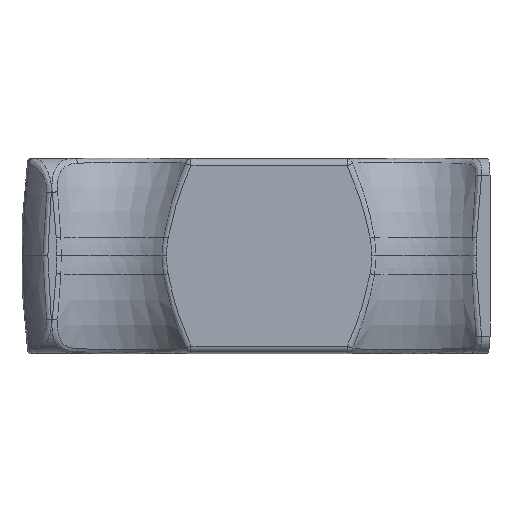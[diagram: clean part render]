
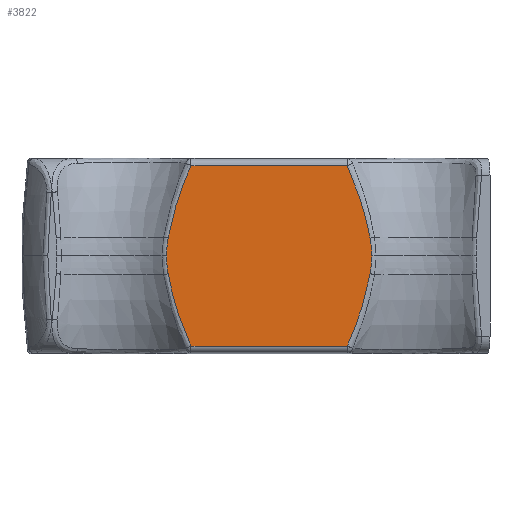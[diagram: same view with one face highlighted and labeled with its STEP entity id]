
A CAD part, top view. The second image highlights one B-rep face of the part: STEP entity #3822.
In plain terms, the highlighted planar face has unit normal (0, 0, 1).
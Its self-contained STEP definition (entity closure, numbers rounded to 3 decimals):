
#252=B_SPLINE_CURVE_WITH_KNOTS('',3,(#7477,#7478,#7479,#7480,#7481,#7482,
#7483,#7484,#7485,#7486),.UNSPECIFIED.,.F.,.F.,(4,3,3,4),(0.,0.346,
0.803,1.),.UNSPECIFIED.);
#253=B_SPLINE_CURVE_WITH_KNOTS('',3,(#7497,#7498,#7499,#7500,#7501,#7502,
#7503,#7504,#7505,#7506),.UNSPECIFIED.,.F.,.F.,(4,3,3,4),(0.,0.197,
0.654,1.),.UNSPECIFIED.);
#372=FACE_OUTER_BOUND('',#607,.T.);
#607=EDGE_LOOP('',(#2641,#2642,#2643,#2644,#2645,#2646,#2647,#2648,#2649,
#2650));
#865=LINE('',#7487,#1106);
#866=LINE('',#7495,#1107);
#1106=VECTOR('',#4550,18.343);
#1107=VECTOR('',#4557,18.343);
#1333=ELLIPSE('',#4124,52.532,41.736);
#1334=ELLIPSE('',#4131,52.531,41.736);
#1406=CIRCLE('',#4128,11.618);
#1407=CIRCLE('',#4129,11.623);
#1408=CIRCLE('',#4130,11.623);
#1409=CIRCLE('',#4132,11.618);
#1638=VERTEX_POINT('',#7467);
#1639=VERTEX_POINT('',#7468);
#1640=VERTEX_POINT('',#7473);
#1641=VERTEX_POINT('',#7474);
#1642=VERTEX_POINT('',#7476);
#1643=VERTEX_POINT('',#7488);
#1644=VERTEX_POINT('',#7490);
#1645=VERTEX_POINT('',#7492);
#1646=VERTEX_POINT('',#7494);
#1647=VERTEX_POINT('',#7496);
#2026=EDGE_CURVE('',#1638,#1639,#1333,.T.);
#2029=EDGE_CURVE('',#1640,#1641,#1406,.T.);
#2030=EDGE_CURVE('',#1642,#1640,#252,.T.);
#2031=EDGE_CURVE('',#1642,#1639,#865,.T.);
#2032=EDGE_CURVE('',#1643,#1638,#1407,.T.);
#2033=EDGE_CURVE('',#1644,#1643,#1408,.T.);
#2034=EDGE_CURVE('',#1645,#1644,#1334,.T.);
#2035=EDGE_CURVE('',#1645,#1646,#866,.T.);
#2036=EDGE_CURVE('',#1647,#1646,#253,.T.);
#2037=EDGE_CURVE('',#1641,#1647,#1409,.T.);
#2641=ORIENTED_EDGE('',*,*,#2029,.F.);
#2642=ORIENTED_EDGE('',*,*,#2030,.F.);
#2643=ORIENTED_EDGE('',*,*,#2031,.T.);
#2644=ORIENTED_EDGE('',*,*,#2026,.F.);
#2645=ORIENTED_EDGE('',*,*,#2032,.F.);
#2646=ORIENTED_EDGE('',*,*,#2033,.F.);
#2647=ORIENTED_EDGE('',*,*,#2034,.F.);
#2648=ORIENTED_EDGE('',*,*,#2035,.T.);
#2649=ORIENTED_EDGE('',*,*,#2036,.F.);
#2650=ORIENTED_EDGE('',*,*,#2037,.F.);
#3509=PLANE('',#4127);
#3822=ADVANCED_FACE('',(#372),#3509,.T.);
#4124=AXIS2_PLACEMENT_3D('',#7469,#4540,#4541);
#4127=AXIS2_PLACEMENT_3D('',#7472,#4546,#4547);
#4128=AXIS2_PLACEMENT_3D('',#7475,#4548,#4549);
#4129=AXIS2_PLACEMENT_3D('',#7489,#4551,#4552);
#4130=AXIS2_PLACEMENT_3D('',#7491,#4553,#4554);
#4131=AXIS2_PLACEMENT_3D('',#7493,#4555,#4556);
#4132=AXIS2_PLACEMENT_3D('',#7507,#4558,#4559);
#4540=DIRECTION('center_axis',(0.,0.,
-1.));
#4541=DIRECTION('ref_axis',(0.994,0.106,0.));
#4546=DIRECTION('center_axis',(0.,0.,1.));
#4547=DIRECTION('ref_axis',(-1.,0.,0.));
#4548=DIRECTION('center_axis',(0.,0.,
-1.));
#4549=DIRECTION('ref_axis',(0.984,0.181,0.));
#4550=DIRECTION('',(-1.,0.,0.));
#4551=DIRECTION('center_axis',(0.,0.,-1.));
#4552=DIRECTION('ref_axis',(-1.,0.,0.));
#4553=DIRECTION('center_axis',(0.,0.,
-1.));
#4554=DIRECTION('ref_axis',(-0.984,-0.18,0.));
#4555=DIRECTION('center_axis',(0.,0.,
-1.));
#4556=DIRECTION('ref_axis',(0.994,-0.106,0.));
#4557=DIRECTION('',(1.,0.,0.));
#4558=DIRECTION('center_axis',(0.,0.,
-1.));
#4559=DIRECTION('ref_axis',(1.,0.,0.));
#7467=CARTESIAN_POINT('',(-11.705,2.095,7.1));
#7468=CARTESIAN_POINT('',(-9.019,10.59,7.1));
#7469=CARTESIAN_POINT('Origin',(40.158,-1.982,7.1));
#7472=CARTESIAN_POINT('Origin',(0.,0.,7.1));
#7473=CARTESIAN_POINT('',(12.015,2.097,7.1));
#7474=CARTESIAN_POINT('',(12.207,0.,7.1));
#7475=CARTESIAN_POINT('Origin',(0.589,-0.001,7.1));
#7476=CARTESIAN_POINT('',(9.323,10.59,7.1));
#7477=CARTESIAN_POINT('Ctrl Pts',(9.323,10.59,7.1));
#7478=CARTESIAN_POINT('Ctrl Pts',(9.75,9.654,7.1));
#7479=CARTESIAN_POINT('Ctrl Pts',(10.139,8.701,7.1));
#7480=CARTESIAN_POINT('Ctrl Pts',(10.488,7.734,7.1));
#7481=CARTESIAN_POINT('Ctrl Pts',(10.95,6.452,7.1));
#7482=CARTESIAN_POINT('Ctrl Pts',(11.34,5.145,7.1));
#7483=CARTESIAN_POINT('Ctrl Pts',(11.654,3.819,7.1));
#7484=CARTESIAN_POINT('Ctrl Pts',(11.789,3.248,7.1));
#7485=CARTESIAN_POINT('Ctrl Pts',(11.91,2.674,7.1));
#7486=CARTESIAN_POINT('Ctrl Pts',(12.015,2.097,7.1));
#7487=CARTESIAN_POINT('',(9.323,10.59,7.1));
#7488=CARTESIAN_POINT('',(-11.895,0.,7.1));
#7489=CARTESIAN_POINT('Origin',(-0.272,-0.001,7.1));
#7490=CARTESIAN_POINT('',(-11.705,-2.095,7.1));
#7491=CARTESIAN_POINT('Origin',(-0.272,0.001,7.1));
#7492=CARTESIAN_POINT('',(-9.019,-10.59,7.1));
#7493=CARTESIAN_POINT('Origin',(40.158,1.982,7.1));
#7494=CARTESIAN_POINT('',(9.323,-10.59,7.1));
#7495=CARTESIAN_POINT('',(-9.019,-10.59,7.1));
#7496=CARTESIAN_POINT('',(12.015,-2.097,7.1));
#7497=CARTESIAN_POINT('Ctrl Pts',(12.015,-2.097,7.1));
#7498=CARTESIAN_POINT('Ctrl Pts',(11.91,-2.674,7.1));
#7499=CARTESIAN_POINT('Ctrl Pts',(11.789,-3.248,7.1));
#7500=CARTESIAN_POINT('Ctrl Pts',(11.654,-3.819,7.1));
#7501=CARTESIAN_POINT('Ctrl Pts',(11.34,-5.145,7.1));
#7502=CARTESIAN_POINT('Ctrl Pts',(10.95,-6.452,7.1));
#7503=CARTESIAN_POINT('Ctrl Pts',(10.488,-7.734,7.1));
#7504=CARTESIAN_POINT('Ctrl Pts',(10.139,-8.701,7.1));
#7505=CARTESIAN_POINT('Ctrl Pts',(9.75,-9.654,7.1));
#7506=CARTESIAN_POINT('Ctrl Pts',(9.323,-10.59,7.1));
#7507=CARTESIAN_POINT('Origin',(0.589,0.001,7.1));
